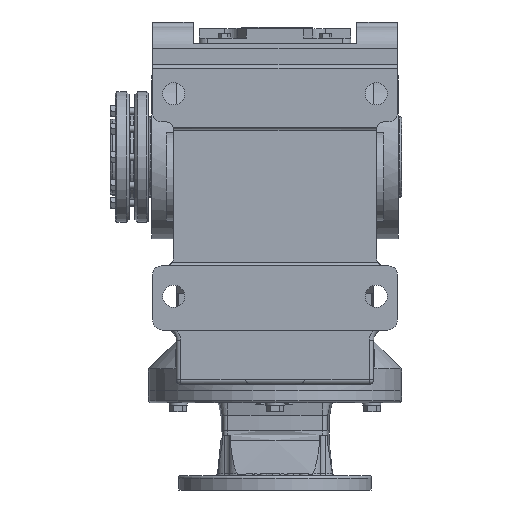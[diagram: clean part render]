
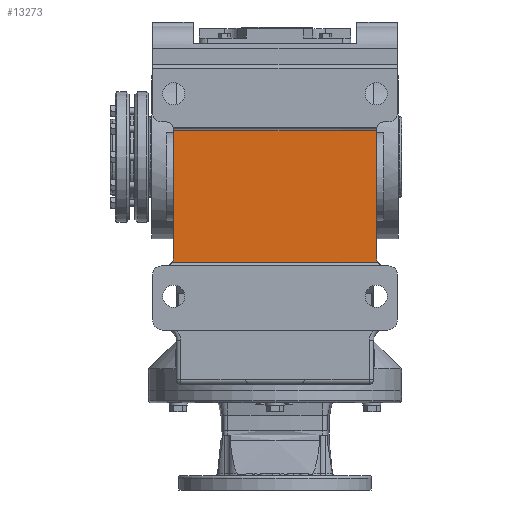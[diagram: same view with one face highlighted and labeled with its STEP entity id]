
A CAD part, front view. The second image highlights one B-rep face of the part: STEP entity #13273.
In plain terms, the highlighted planar face has unit normal (0, -1, 0).
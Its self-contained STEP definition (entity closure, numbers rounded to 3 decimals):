
#4343 = VECTOR ( 'NONE', #13783, 1000. ) ;
#4347 = LINE ( 'NONE', #13778, #4343 ) ;
#9864 = LINE ( 'NONE', #30778, #9885 ) ;
#9881 = LINE ( 'NONE', #30773, #9883 ) ;
#9883 = VECTOR ( 'NONE', #30774, 1000. ) ;
#9884 = CIRCLE ( 'NONE', #33998, 10. ) ;
#9885 = VECTOR ( 'NONE', #30782, 1000. ) ;
#9886 = CIRCLE ( 'NONE', #34000, 10. ) ;
#9887 = LINE ( 'NONE', #30783, #9889 ) ;
#9889 = VECTOR ( 'NONE', #30784, 1000. ) ;
#12042 = FACE_OUTER_BOUND ( 'NONE', #38984, .T. ) ;
#13273 = ADVANCED_FACE ( 'NONE', ( #12042 ), #58936, .T. ) ;
#13778 = CARTESIAN_POINT ( 'NONE',  ( -145., -260., -125. ) ) ;
#13783 = DIRECTION ( 'NONE',  ( 1., 0., 0. ) ) ;
#16039 = CARTESIAN_POINT ( 'NONE',  ( 120., -260., -119. ) ) ;
#16067 = CARTESIAN_POINT ( 'NONE',  ( 120., -260., 31. ) ) ;
#16077 = CARTESIAN_POINT ( 'NONE',  ( -120., -260., 31. ) ) ;
#16079 = CARTESIAN_POINT ( 'NONE',  ( -120., -260., -119. ) ) ;
#16214 = CARTESIAN_POINT ( 'NONE',  ( 122., -260., -125. ) ) ;
#16235 = CARTESIAN_POINT ( 'NONE',  ( -122., -260., -125. ) ) ;
#25761 = ORIENTED_EDGE ( 'NONE', *, *, #57136, .F. ) ;
#25762 = ORIENTED_EDGE ( 'NONE', *, *, #57139, .F. ) ;
#25763 = ORIENTED_EDGE ( 'NONE', *, *, #57141, .T. ) ;
#25764 = ORIENTED_EDGE ( 'NONE', *, *, #33827, .T. ) ;
#25765 = ORIENTED_EDGE ( 'NONE', *, *, #57143, .T. ) ;
#25766 = ORIENTED_EDGE ( 'NONE', *, *, #57146, .F. ) ;
#30773 = CARTESIAN_POINT ( 'NONE',  ( -145., -260., 31. ) ) ;
#30774 = DIRECTION ( 'NONE',  ( 1., 0., 0. ) ) ;
#30778 = CARTESIAN_POINT ( 'NONE',  ( -120., -260., -125. ) ) ;
#30782 = DIRECTION ( 'NONE',  ( 0., 0., 1. ) ) ;
#30783 = CARTESIAN_POINT ( 'NONE',  ( 120., -260., 31. ) ) ;
#30784 = DIRECTION ( 'NONE',  ( 0., 0., -1. ) ) ;
#30785 = CARTESIAN_POINT ( 'NONE',  ( -130., -260., -119. ) ) ;
#30786 = DIRECTION ( 'NONE',  ( 0., 1., 0. ) ) ;
#30787 = DIRECTION ( 'NONE',  ( 0., 0., -1. ) ) ;
#30790 = CARTESIAN_POINT ( 'NONE',  ( 130., -260., -119. ) ) ;
#30791 = DIRECTION ( 'NONE',  ( 0., 1., 0. ) ) ;
#30792 = DIRECTION ( 'NONE',  ( 0., 0., -1. ) ) ;
#33827 = EDGE_CURVE ( 'NONE', #49216, #49205, #4347, .T. ) ;
#33998 = AXIS2_PLACEMENT_3D ( 'NONE', #30785, #30786, #30787 ) ;
#34000 = AXIS2_PLACEMENT_3D ( 'NONE', #30790, #30791, #30792 ) ;
#38535 = AXIS2_PLACEMENT_3D ( 'NONE', #58934, #58938, #58939 ) ;
#38984 = EDGE_LOOP ( 'NONE', ( #25761, #25762, #25763, #25764, #25765, #25766 ) ) ;
#49109 = VERTEX_POINT ( 'NONE', #16039 ) ;
#49120 = VERTEX_POINT ( 'NONE', #16067 ) ;
#49126 = VERTEX_POINT ( 'NONE', #16077 ) ;
#49132 = VERTEX_POINT ( 'NONE', #16079 ) ;
#49205 = VERTEX_POINT ( 'NONE', #16214 ) ;
#49216 = VERTEX_POINT ( 'NONE', #16235 ) ;
#57136 = EDGE_CURVE ( 'NONE', #49126, #49120, #9881, .T. ) ;
#57139 = EDGE_CURVE ( 'NONE', #49132, #49126, #9864, .T. ) ;
#57141 = EDGE_CURVE ( 'NONE', #49132, #49216, #9884, .T. ) ;
#57143 = EDGE_CURVE ( 'NONE', #49205, #49109, #9886, .T. ) ;
#57146 = EDGE_CURVE ( 'NONE', #49120, #49109, #9887, .T. ) ;
#58934 = CARTESIAN_POINT ( 'NONE',  ( -145., -260., 31. ) ) ;
#58936 = PLANE ( 'NONE',  #38535 ) ;
#58938 = DIRECTION ( 'NONE',  ( 0., -1., 0. ) ) ;
#58939 = DIRECTION ( 'NONE',  ( 0., 0., -1. ) ) ;
